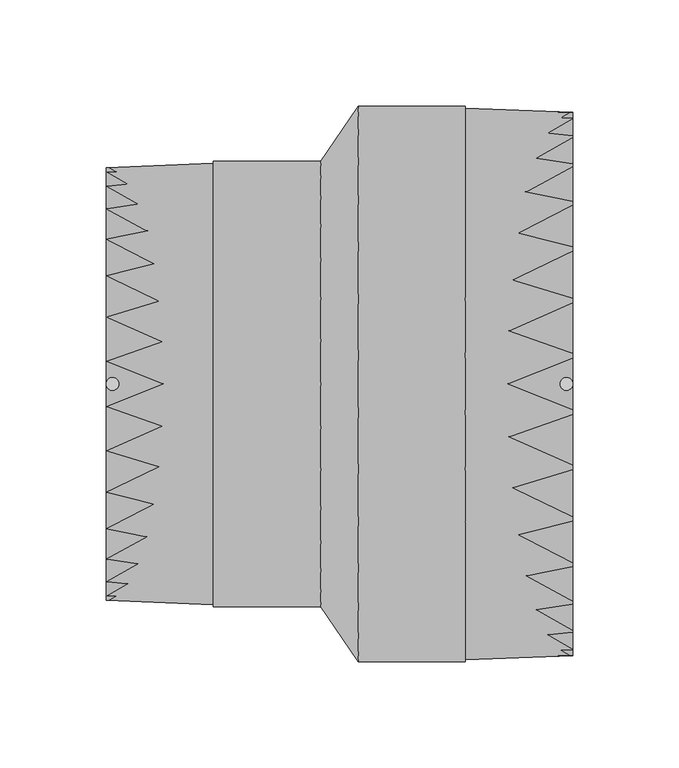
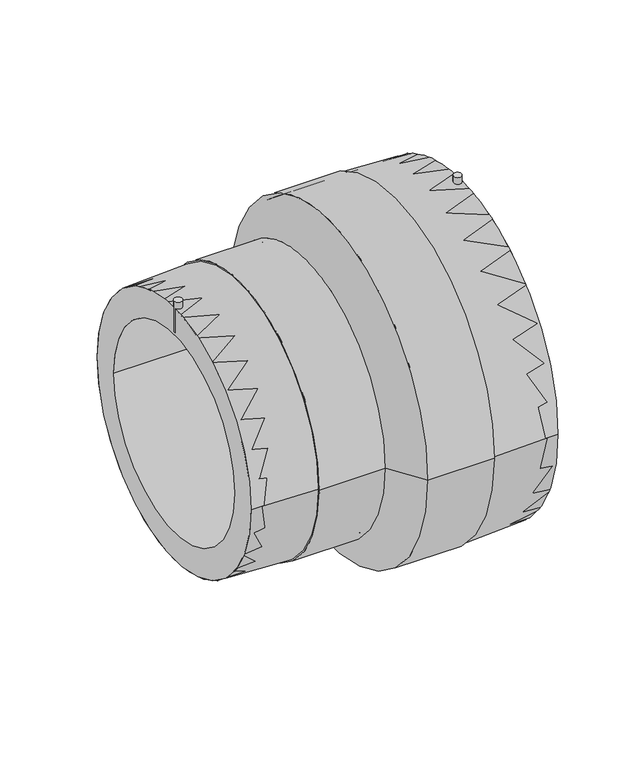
"""IFC4 building model written with IfcOpenShell, lengths in millimetres: pipe fitting geometry, EGB_VASEN_ PPR_Manguito reductor electrosoldable WXRD110 : Manguito reductor electrosoldable WXRD110."""

from ifc_helpers import new_model, si_unit, point, frame, frame_2d, origin, origin_2d, place, context, project, spatial, polyline, circle_curve, trimmed, segment, composite_curve, outline, extrude, source, transform, mapped, element, save
from ifc_brep_helpers import plane_surface, cylinder_surface, revolved_surface, advanced_brep


def pipe_fitting_8968406c(model_context):
    return source(origin(), model_context, "Body", "SolidModel", [
        extrude(outline(composite_curve([segment(trimmed(circle_curve(frame_2d((107.0, 0.0)), 3.0), [point((104.0, 0.0))], [point((110.0, 0.0))], False, "CARTESIAN"), True, "CONTINUOUS"), segment(trimmed(circle_curve(frame_2d((107.0, 0.0)), 3.0), [point((110.0, 0.0))], [point((104.0, 0.0))], False, "CARTESIAN"), True, "CONTINUOUS")], self_intersect=False)), frame((0.0, 0.0, 102.0), z_axis=(0.0, 0.0, 1.0), x_axis=(1.0, 0.0, 0.0)), (0.0, 0.0, 1.0), 31.0),
        extrude(outline(composite_curve([segment(trimmed(circle_curve(frame_2d((-107.0, 0.0)), 3.0), [point((-110.0, 0.0))], [point((-104.0, 0.0))], False, "CARTESIAN"), True, "CONTINUOUS"), segment(trimmed(circle_curve(frame_2d((-107.0, 0.0)), 3.0), [point((-104.0, 0.0))], [point((-110.0, 0.0))], False, "CARTESIAN"), True, "CONTINUOUS")], self_intersect=False)), frame((0.0, 0.0, 82.0), z_axis=(0.0, 0.0, 1.0), x_axis=(1.0, 0.0, 0.0)), (0.0, 0.0, 1.0), 25.0),
        extrude(outline(composite_curve([segment(trimmed(circle_curve(origin_2d(), 128.0), [point((-128.0, 0.0))], [point((128.0, 0.0))], False, "CARTESIAN"), True, "CONTINUOUS"), segment(trimmed(circle_curve(origin_2d(), 128.0), [point((128.0, 0.0))], [point((-128.0, 0.0))], False, "CARTESIAN"), True, "CONTINUOUS")], self_intersect=False), holes=[composite_curve([segment(trimmed(circle_curve(origin_2d(), 100.0), [point((-100.0, 0.0))], [point((100.0, 0.0))], True, "CARTESIAN"), True, "CONTINUOUS"), segment(trimmed(circle_curve(origin_2d(), 100.0), [point((100.0, 0.0))], [point((-100.0, 0.0))], True, "CARTESIAN"), True, "CONTINUOUS")], self_intersect=False)]), frame((8.8, 0.0, 0.0), z_axis=(1.0, 0.0, 0.0), x_axis=(0.0, 1.0, 0.0)), (0.0, 0.0, 1.0), 101.2),
        extrude(outline(composite_curve([segment(trimmed(circle_curve(origin_2d(), 102.0), [point((-102.0, 0.0))], [point((102.0, 0.0))], False, "CARTESIAN"), True, "CONTINUOUS"), segment(trimmed(circle_curve(origin_2d(), 102.0), [point((102.0, 0.0))], [point((-102.0, 0.0))], False, "CARTESIAN"), True, "CONTINUOUS")], self_intersect=False), holes=[composite_curve([segment(trimmed(circle_curve(origin_2d(), 80.0), [point((-80.0, 0.0))], [point((80.0, 0.0))], True, "CARTESIAN"), True, "CONTINUOUS"), segment(trimmed(circle_curve(origin_2d(), 80.0), [point((80.0, 0.0))], [point((-80.0, 0.0))], True, "CARTESIAN"), True, "CONTINUOUS")], self_intersect=False)]), frame((-110.0, 0.0, 0.0), z_axis=(1.0, 0.0, 0.0), x_axis=(0.0, 1.0, 0.0)), (0.0, 0.0, 1.0), 101.2),
        advanced_brep(
        [(8.8, -128.0, 0.0), (8.8, 128.0, 0.0), (-8.8, -102.0, 0.0), (-8.8, 102.0, 0.0)],
        [
            (0, 1, circle_curve(frame((8.8, 0.0, 0.0), z_axis=(1.0, 0.0, 0.0), x_axis=(0.0, -1.0, 0.0)), 128.0)),
            (1, 0, circle_curve(frame((8.8, 0.0, 0.0), z_axis=(1.0, 0.0, 0.0), x_axis=(0.0, 1.0, 0.0)), 128.0)),
            (2, 3, circle_curve(frame((-8.8, 0.0, 0.0), z_axis=(-1.0, 0.0, 0.0), x_axis=(0.0, 1.0, 0.0)), 102.0)),
            (3, 2, circle_curve(frame((-8.8, 0.0, 0.0), z_axis=(-1.0, 0.0, 0.0), x_axis=(0.0, -1.0, 0.0)), 102.0)),
            (3, 1),
            (0, 2),
        ],
        [
            plane_surface(frame((8.8, 0.0, 0.0), z_axis=(1.0, 0.0, 0.0), x_axis=(0.0, 0.0, -1.0))),
            plane_surface(frame((-8.8, 0.0, 0.0), z_axis=(-1.0, 0.0, 0.0), x_axis=(0.0, 0.0, -1.0))),
            revolved_surface(polyline([(-8.799999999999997, 101.99999998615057, 0.0), (8.799999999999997, 128.0, 0.0)]), (-77.8461538, 0.0, 0.0), (1.0, 0.0, 0.0)),
            revolved_surface(polyline([(-8.799999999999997, -101.99999998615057, 0.0), (8.799999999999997, -128.0, 0.0)]), (-77.8461538, 0.0, 0.0), (1.0, 0.0, 0.0)),
        ],
        [
            (0, [[1, 2]]),
            (1, [[3, 4]]),
            (2, [[-4, 5, -1, 6]]),
            (3, [[-3, -6, -2, -5]]),
        ],
    ),
        advanced_brep(
        [(8.8, -128.0, 0.0), (8.8, 128.0, 0.0), (-8.8, 102.0, 0.0), (-8.8, -102.0, 0.0), (110.0, -128.0, 0.0), (110.0, 128.0, 0.0), (59.4, -130.0, 0.0), (59.4, 130.0, 0.0), (59.4, -131.0, 0.0), (59.4, 131.0, 0.0), (8.8, -131.0, 0.0), (8.8, 131.0, 0.0), (-8.8, -105.0, 0.0), (-8.8, 105.0, 0.0), (-59.4, -105.0, 0.0), (-59.4, 105.0, 0.0), (-59.4, -104.0, 0.0), (-59.4, 104.0, 0.0), (-110.0, -102.0, 0.0), (-110.0, 102.0, 0.0)],
        [
            (0, 1, circle_curve(frame((8.8, 0.0, 0.0), z_axis=(1.0, 0.0, 0.0), x_axis=(0.0, 1.0, 0.0)), 128.0)),
            (1, 2),
            (2, 3, circle_curve(frame((-8.8, 0.0, 0.0), z_axis=(-1.0, 0.0, 0.0), x_axis=(0.0, 1.0, 0.0)), 102.0)),
            (3, 0),
            (1, 0, circle_curve(frame((8.8, 0.0, 0.0), z_axis=(1.0, 0.0, 0.0), x_axis=(0.0, 1.0, 0.0)), 128.0)),
            (3, 2, circle_curve(frame((-8.8, 0.0, 0.0), z_axis=(-1.0, 0.0, 0.0), x_axis=(0.0, 1.0, 0.0)), 102.0)),
            (4, 5, circle_curve(frame((110.0, 0.0, 0.0), z_axis=(1.0, 0.0, 0.0), x_axis=(0.0, 1.0, 0.0)), 128.0)),
            (5, 1),
            (0, 4),
            (5, 4, circle_curve(frame((110.0, 0.0, 0.0), z_axis=(1.0, 0.0, 0.0), x_axis=(0.0, 1.0, 0.0)), 128.0)),
            (6, 7, circle_curve(frame((59.4, 0.0, 0.0), z_axis=(1.0, 0.0, 0.0), x_axis=(0.0, 1.0, 0.0)), 130.0)),
            (7, 5),
            (4, 6),
            (7, 6, circle_curve(frame((59.4, 0.0, 0.0), z_axis=(1.0, 0.0, 0.0), x_axis=(0.0, 1.0, 0.0)), 130.0)),
            (8, 9, circle_curve(frame((59.4, 0.0, 0.0), z_axis=(1.0, 0.0, 0.0), x_axis=(0.0, 1.0, 0.0)), 131.0)),
            (9, 7),
            (6, 8),
            (9, 8, circle_curve(frame((59.4, 0.0, 0.0), z_axis=(1.0, 0.0, 0.0), x_axis=(0.0, 1.0, 0.0)), 131.0)),
            (10, 11, circle_curve(frame((8.8, 0.0, 0.0), z_axis=(1.0, 0.0, 0.0), x_axis=(0.0, 1.0, 0.0)), 131.0)),
            (11, 9),
            (8, 10),
            (11, 10, circle_curve(frame((8.8, 0.0, 0.0), z_axis=(1.0, 0.0, 0.0), x_axis=(0.0, 1.0, 0.0)), 131.0)),
            (12, 13, circle_curve(frame((-8.8, 0.0, 0.0), z_axis=(1.0, 0.0, 0.0), x_axis=(0.0, 1.0, 0.0)), 105.0)),
            (13, 11),
            (10, 12),
            (13, 12, circle_curve(frame((-8.8, 0.0, 0.0), z_axis=(1.0, 0.0, 0.0), x_axis=(0.0, 1.0, 0.0)), 105.0)),
            (14, 15, circle_curve(frame((-59.4, 0.0, 0.0), z_axis=(1.0, 0.0, 0.0), x_axis=(0.0, 1.0, 0.0)), 105.0)),
            (15, 13),
            (12, 14),
            (15, 14, circle_curve(frame((-59.4, 0.0, 0.0), z_axis=(1.0, 0.0, 0.0), x_axis=(0.0, 1.0, 0.0)), 105.0)),
            (16, 17, circle_curve(frame((-59.4, 0.0, 0.0), z_axis=(1.0, 0.0, 0.0), x_axis=(0.0, 1.0, 0.0)), 104.0)),
            (17, 15),
            (14, 16),
            (17, 16, circle_curve(frame((-59.4, 0.0, 0.0), z_axis=(1.0, 0.0, 0.0), x_axis=(0.0, 1.0, 0.0)), 104.0)),
            (18, 19, circle_curve(frame((-110.0, 0.0, 0.0), z_axis=(1.0, 0.0, 0.0), x_axis=(0.0, 1.0, 0.0)), 102.0)),
            (19, 17),
            (16, 18),
            (19, 18, circle_curve(frame((-110.0, 0.0, 0.0), z_axis=(1.0, 0.0, 0.0), x_axis=(0.0, 1.0, 0.0)), 102.0)),
            (2, 19),
            (18, 3),
        ],
        [
            revolved_surface(polyline([(-8.8, 102.0, 0.0), (8.8, 128.0, 0.0)]), (-145.0, 0.0, 0.0), (-1.0, 0.0, 0.0)),
            revolved_surface(polyline([(8.800000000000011, 128.0, 0.0), (110.0, 128.0, 0.0)]), (-145.0, 0.0, 0.0), (-1.0, 0.0, 0.0)),
            revolved_surface(polyline([(110.0, 128.0, 0.0), (59.4, 130.0, 0.0)]), (-145.0, 0.0, 0.0), (-1.0, 0.0, 0.0)),
            plane_surface(frame((59.4, 0.0, 0.0), z_axis=(1.0, 0.0, 0.0), x_axis=(0.0, 1.0, 0.0))),
            cylinder_surface(frame((-145.0, 0.0, 0.0), z_axis=(-1.0, 0.0, 0.0), x_axis=(0.0, 1.0, 0.0)), 131.0),
            revolved_surface(polyline([(8.8, 131.0, 0.0), (-8.8, 105.0, 0.0)]), (-145.0, 0.0, 0.0), (-1.0, 0.0, 0.0)),
            cylinder_surface(frame((-145.0, 0.0, 0.0), z_axis=(-1.0, 0.0, 0.0), x_axis=(0.0, 1.0, 0.0)), 105.0),
            plane_surface(frame((-59.4, 0.0, 0.0), z_axis=(-1.0, 0.0, 0.0), x_axis=(0.0, 1.0, 0.0))),
            revolved_surface(polyline([(-59.4, 104.0, 0.0), (-110.0, 102.0, 0.0)]), (-145.0, 0.0, 0.0), (-1.0, 0.0, 0.0)),
            revolved_surface(polyline([(-110.0, 102.0, 0.0), (-8.800000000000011, 102.0, 0.0)]), (-145.0, 0.0, 0.0), (-1.0, 0.0, 0.0)),
        ],
        [
            (0, [[1, 2, 3, 4]]),
            (0, [[5, -4, 6, -2]]),
            (1, [[7, 8, -1, 9]]),
            (1, [[10, -9, -5, -8]]),
            (2, [[11, 12, -7, 13]]),
            (2, [[14, -13, -10, -12]]),
            (3, [[15, 16, -11, 17]]),
            (3, [[18, -17, -14, -16]]),
            (4, [[19, 20, -15, 21]]),
            (4, [[22, -21, -18, -20]]),
            (5, [[23, 24, -19, 25]]),
            (5, [[26, -25, -22, -24]]),
            (6, [[27, 28, -23, 29]]),
            (6, [[30, -29, -26, -28]]),
            (7, [[31, 32, -27, 33]]),
            (7, [[34, -33, -30, -32]]),
            (8, [[35, 36, -31, 37]]),
            (8, [[38, -37, -34, -36]]),
            (9, [[-3, 39, -35, 40]]),
            (9, [[-6, -40, -38, -39]]),
        ],
    ),
    ])


if __name__ == "__main__":
    model = new_model("IFC4")
    model_context = context("Model", 3, world=origin())
    ifc_project = project(units=[si_unit("LENGTHUNIT", "METRE", prefix="MILLI")], contexts=[model_context])
    site = spatial("IfcSite", under=ifc_project)
    building = spatial("IfcBuilding", under=site)
    placement = place(None, origin())
    pipe_fitting_shape = pipe_fitting_8968406c(model_context)
    element("IfcPipeFitting", 1, ObjectType="EGB_VASEN_ PPR_Manguito reductor electrosoldable WXRD110 : Manguito reductor electrosoldable WXRD110", at=placement, inside=building, context=model_context, shape_type="MappedRepresentation", body=[
        mapped(pipe_fitting_shape, transform((0.0, 0.0, 0.0), x_axis=(1.0, 0.0, 0.0), y_axis=(0.0, 1.0, 0.0), z_axis=(0.0, 0.0, 1.0))),
    ])
    save(model, "model.ifc")
